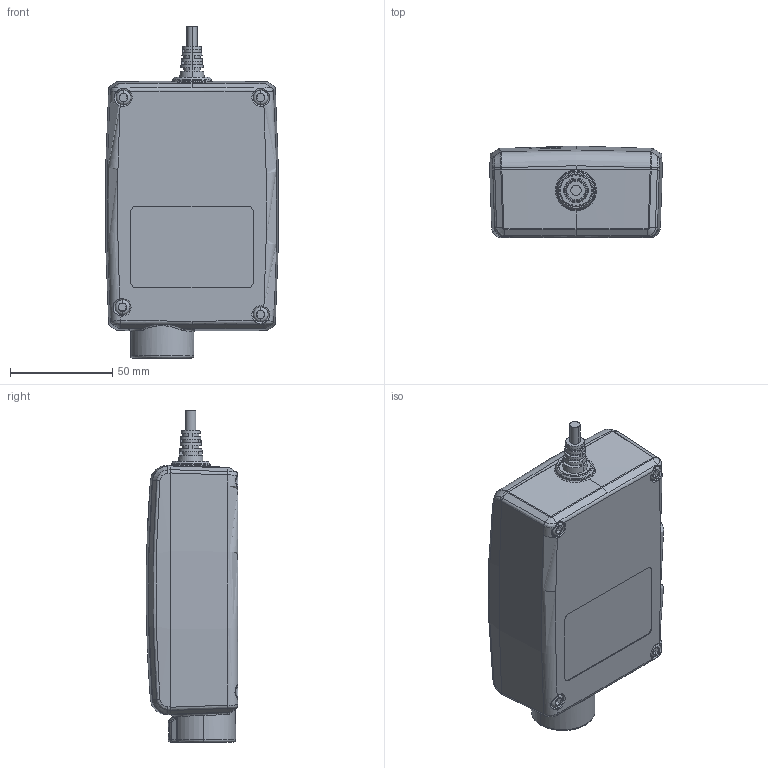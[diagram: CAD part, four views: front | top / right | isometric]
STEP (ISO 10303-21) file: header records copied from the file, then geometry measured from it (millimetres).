
FILE_DESCRIPTION (( 'STEP AP203' ), '1' );
FILE_NAME ('TP9.STEP', '2014-03-04T05:51:03', ( '' ), ( '' ), 'SwSTEP 2.0', 'SolidWorks 2010', '' );
FILE_SCHEMA (( 'CONFIG_CONTROL_DESIGN' ));
Length unit declared in the file: millimetre
Products named in the file (4): SR; TP9 上蓋; TP9; TP9 下蓋
Assembly tree (3 placements, depth 2):
  TP9
    SR
    TP9 上蓋
    TP9 下蓋
Bounding box: 84.33 x 44.8 x 162.25 mm (x, y, z)
Volume: 426995.7 mm3; surface area: 60614.9 mm2
Topology: 3 solids, 3 shells, 412 faces, 1053 edges, 664 vertices
Faces by surface type: plane 130, cylinder 95, bspline 92, cone 55, torus 35, sphere 5
Entity records: 29060 total; most frequent: CARTESIAN_POINT 19265, ORIENTED_EDGE 2102, DIRECTION 1762, EDGE_CURVE 1051, AXIS2_PLACEMENT_3D 693, VERTEX_POINT 664, EDGE_LOOP 433, ADVANCED_FACE 412
